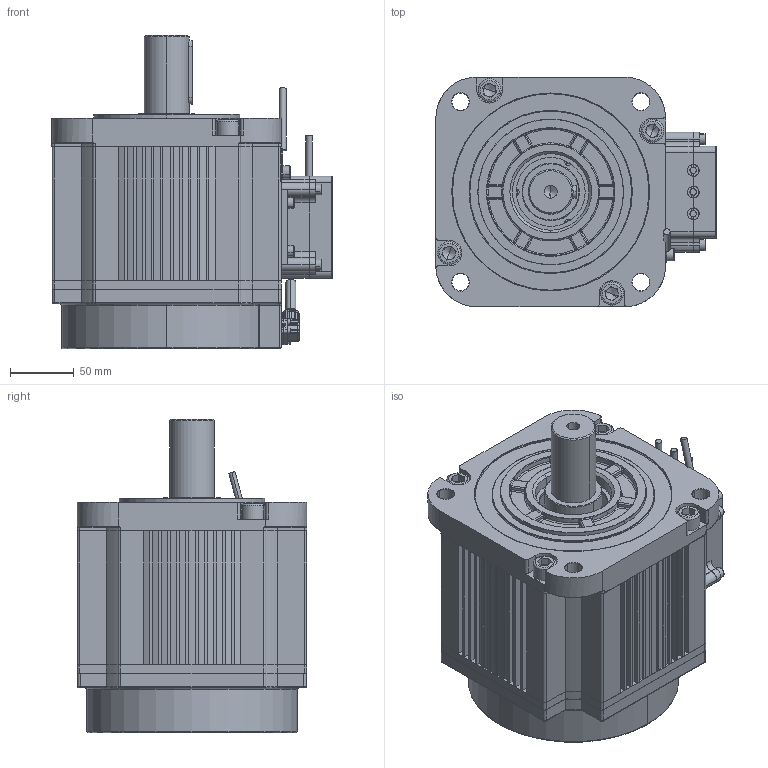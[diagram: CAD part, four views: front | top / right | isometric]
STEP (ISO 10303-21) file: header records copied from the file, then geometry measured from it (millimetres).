
FILE_DESCRIPTION (( 'STEP AP203' ), '1' );
FILE_NAME ('軞蚾.STEP', '2025-01-06T11:44:19', ( 'wuyd' ), ( '' ), 'SwSTEP 2.0', 'SolidWorks 2023', '' );
FILE_SCHEMA (( 'CONFIG_CONTROL_DESIGN' ));
Length unit declared in the file: millimetre
Products named in the file (1): 总装
Bounding box: 219.65 x 180 x 245.5 mm (x, y, z)
Volume: 1476076.6 mm3; surface area: 535190.9 mm2
Topology: 52 solids, 52 shells, 4282 faces, 10671 edges, 6503 vertices
Faces by surface type: plane 1914, cylinder 1230, torus 422, bspline 319, cone 303, sphere 94
Entity records: 145083 total; most frequent: CARTESIAN_POINT 44554, DIRECTION 21053, ORIENTED_EDGE 20930, EDGE_CURVE 10465, AXIS2_PLACEMENT_3D 7618, VERTEX_POINT 6471, VECTOR 5817, LINE 5817
